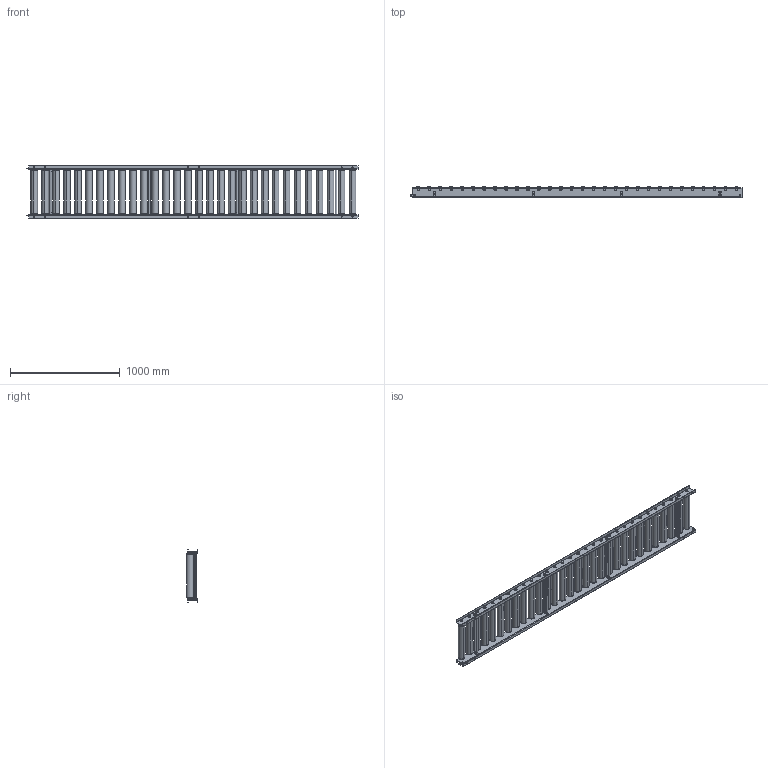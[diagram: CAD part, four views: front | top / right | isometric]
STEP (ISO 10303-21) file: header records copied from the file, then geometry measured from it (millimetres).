
FILE_DESCRIPTION (( 'STEP AP203' ), '1' );
FILE_NAME ('R-6038SB.step', '2024-02-26T06:37:45', ( '' ), ( '' ), 'SwSTEP 2.0', 'SolidWorks 2023', '' );
FILE_SCHEMA (( 'CONFIG_CONTROL_DESIGN' ));
Length unit declared in the file: millimetre
Products named in the file (1): R-6038SB
Bounding box: 3025 x 100.14 x 475 mm (x, y, z)
Volume: 39134083.8 mm3; surface area: 6120870.2 mm2
Topology: 104 solids, 104 shells, 1384 faces, 3052 edges, 1952 vertices
Faces by surface type: cylinder 626, plane 542, torus 120, cone 96
Entity records: 39735 total; most frequent: CARTESIAN_POINT 7733, DIRECTION 7214, ORIENTED_EDGE 6104, EDGE_CURVE 3052, AXIS2_PLACEMENT_3D 3033, VERTEX_POINT 1952, EDGE_LOOP 1728, CIRCLE 1648
